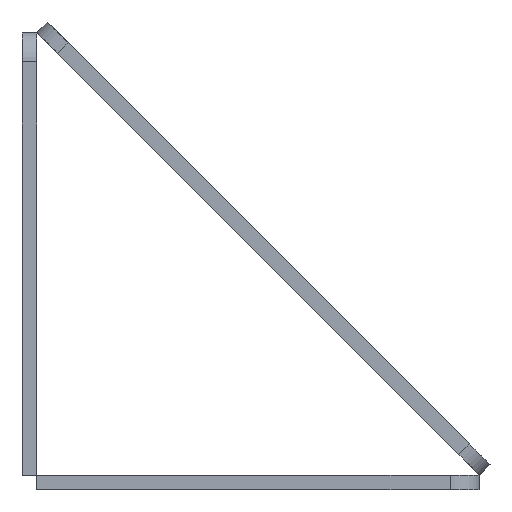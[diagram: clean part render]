
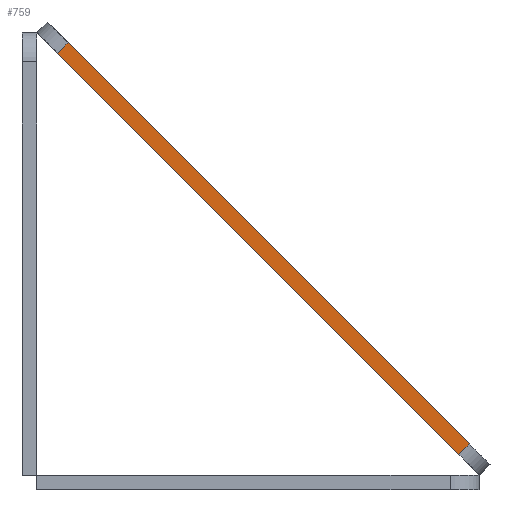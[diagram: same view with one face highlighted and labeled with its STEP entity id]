
A CAD part, left-side view. The second image highlights one B-rep face of the part: STEP entity #759.
In plain terms, the highlighted planar face has unit normal (-1, 0, 0).
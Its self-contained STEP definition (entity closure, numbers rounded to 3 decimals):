
#125 = VERTEX_POINT ( 'NONE', #705 ) ;
#127 = EDGE_CURVE ( 'NONE', #417, #911, #231, .T. ) ;
#231 = LINE ( 'NONE', #336, #1401 ) ;
#257 = PLANE ( 'NONE',  #302 ) ;
#302 = AXIS2_PLACEMENT_3D ( 'NONE', #1020, #1768, #413 ) ;
#336 = CARTESIAN_POINT ( 'NONE',  ( -21.479, 69.28, 0. ) ) ;
#413 = DIRECTION ( 'NONE',  ( 0., 1., 0. ) ) ;
#417 = VERTEX_POINT ( 'NONE', #1869 ) ;
#530 = CARTESIAN_POINT ( 'NONE',  ( -21.479, 69.28, 3. ) ) ;
#561 = EDGE_CURVE ( 'NONE', #125, #911, #1134, .T. ) ;
#596 = VECTOR ( 'NONE', #1283, 1000. ) ;
#608 = ORIENTED_EDGE ( 'NONE', *, *, #561, .F. ) ;
#705 = CARTESIAN_POINT ( 'NONE',  ( -21.479, -46., 3. ) ) ;
#710 = CARTESIAN_POINT ( 'NONE',  ( -21.479, -46., 3. ) ) ;
#759 = ADVANCED_FACE ( 'NONE', ( #760 ), #257, .F. ) ;
#760 = FACE_OUTER_BOUND ( 'NONE', #1453, .T. ) ;
#811 = EDGE_CURVE ( 'NONE', #931, #125, #1327, .T. ) ;
#854 = CARTESIAN_POINT ( 'NONE',  ( -21.479, 69.28, 3. ) ) ;
#885 = VECTOR ( 'NONE', #1757, 1000. ) ;
#908 = ORIENTED_EDGE ( 'NONE', *, *, #811, .F. ) ;
#911 = VERTEX_POINT ( 'NONE', #1681 ) ;
#931 = VERTEX_POINT ( 'NONE', #1465 ) ;
#946 = LINE ( 'NONE', #530, #596 ) ;
#1020 = CARTESIAN_POINT ( 'NONE',  ( -21.479, 69.28, 3. ) ) ;
#1065 = EDGE_CURVE ( 'NONE', #931, #417, #946, .T. ) ;
#1134 = LINE ( 'NONE', #710, #1504 ) ;
#1283 = DIRECTION ( 'NONE',  ( 0., 0., -1. ) ) ;
#1327 = LINE ( 'NONE', #854, #885 ) ;
#1401 = VECTOR ( 'NONE', #1909, 1000. ) ;
#1453 = EDGE_LOOP ( 'NONE', ( #1604, #608, #908, #1930 ) ) ;
#1465 = CARTESIAN_POINT ( 'NONE',  ( -21.479, 69.28, 3. ) ) ;
#1504 = VECTOR ( 'NONE', #1766, 1000. ) ;
#1604 = ORIENTED_EDGE ( 'NONE', *, *, #127, .T. ) ;
#1681 = CARTESIAN_POINT ( 'NONE',  ( -21.479, -46., 0. ) ) ;
#1757 = DIRECTION ( 'NONE',  ( 0., -1., 0. ) ) ;
#1766 = DIRECTION ( 'NONE',  ( 0., 0., -1. ) ) ;
#1768 = DIRECTION ( 'NONE',  ( 1., 0., 0. ) ) ;
#1869 = CARTESIAN_POINT ( 'NONE',  ( -21.479, 69.28, 0. ) ) ;
#1909 = DIRECTION ( 'NONE',  ( 0., -1., 0. ) ) ;
#1930 = ORIENTED_EDGE ( 'NONE', *, *, #1065, .T. ) ;
